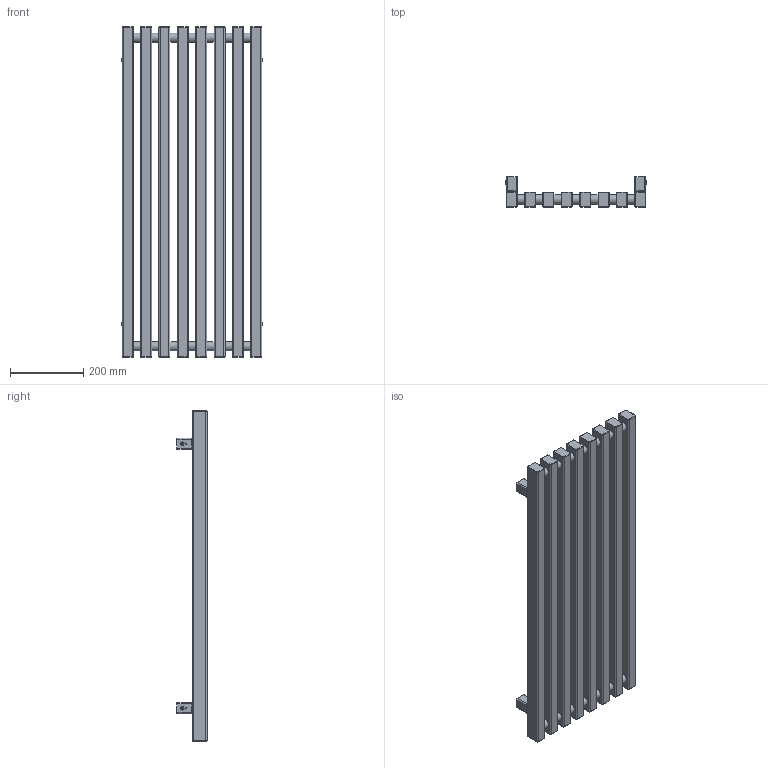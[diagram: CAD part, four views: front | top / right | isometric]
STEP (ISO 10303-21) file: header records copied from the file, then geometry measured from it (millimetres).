
FILE_DESCRIPTION((''),'2;1');
FILE_NAME('Z:\R\G\P\RGP029 - Grzejnik Triga ( ZET)\Work\Inventor\Triga v1.1\Marketing\AutoCad 3D\G-TR-XX-MK-XX-90-48-ZX.stp','2012-07-26T13:36:38',('DawPi'),(''),'Autodesk Inventor 2012','Autodesk Inventor 2012','');
FILE_SCHEMA(('AUTOMOTIVE_DESIGN { 1 0 10303 214 1 1 1 1 }'));
Length unit declared in the file: millimetre
Products named in the file (3): G-TR-XX-MK-XX-90-48-ZX; MMT42
Assembly tree (5 placements, depth 2):
  G-TR-XX-MK-XX-90-48-ZX
    G-TR-XX-MK-XX-90-48-ZX
    MMT42  x4
Bounding box: 386 x 82 x 900 mm (x, y, z)
Volume: 8856947.1 mm3; surface area: 1029297.6 mm2
Topology: 5 solids, 5 shells, 429 faces, 969 edges, 587 vertices
Faces by surface type: cylinder 169, plane 159, bspline 64, cone 24, torus 13
Full cylindrical faces by diameter (mm): 4.134 x4, 4.509 x4, 10 x4, 11.445 x1, 12 x4, 18.631 x2, 25 x14
Entity records: 12871 total; most frequent: CARTESIAN_POINT 6442, DIRECTION 1426, ORIENTED_EDGE 1212, EDGE_CURVE 606, AXIS2_PLACEMENT_3D 586, VERTEX_POINT 378, EDGE_LOOP 372, CIRCLE 348
